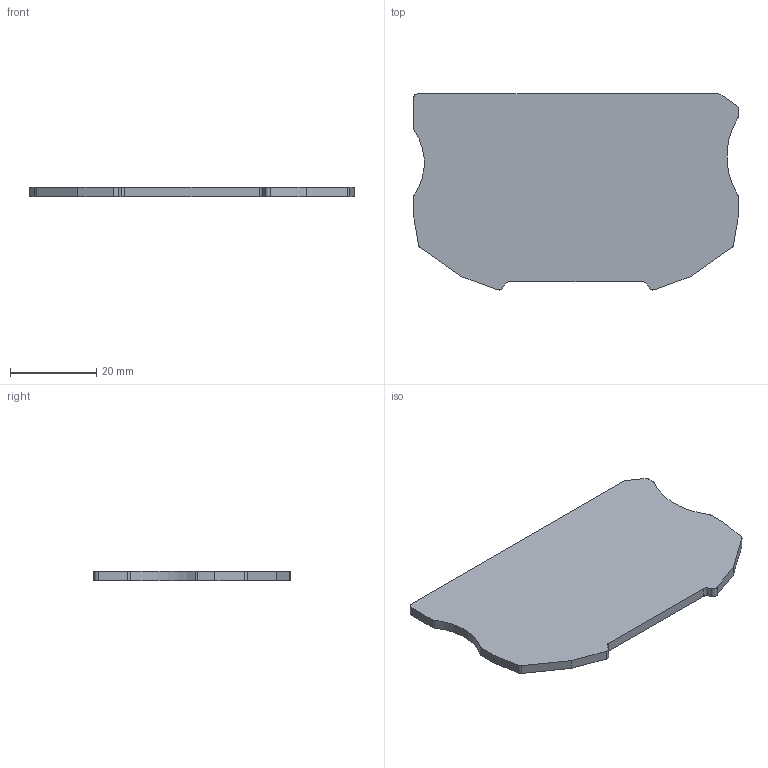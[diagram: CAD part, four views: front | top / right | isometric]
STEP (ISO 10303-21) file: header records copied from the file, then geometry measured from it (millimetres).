
FILE_DESCRIPTION( ('This file contains a STEP AP42 implementation' ,'as created by ZW3D STEP Interface translator.') ,'2;1' );
FILE_NAME( 'D-RPV16傷啣耀倰.stp' ,'22 928. 91114', (''), ('ZWCAD Software Co.'), 'Version 1.0', 'ZW3D to STEP translator', '' );
FILE_SCHEMA(('AUTOMOTIVE_DESIGN { 1 0 10303 214 1 1 1 1 }'));
Length unit declared in the file: millimetre
Products named in the file (2): 0; D-RPV16傷啣耀倰
Bounding box: 75.4 x 45.46 x 2.2 mm (x, y, z)
Volume: 6832.3 mm3; surface area: 6708.3 mm2
Topology: 1 solids, 1 shells, 32 faces, 90 edges, 60 vertices
Faces by surface type: plane 17, cylinder 15
Entity records: 1113 total; most frequent: DIRECTION 186, CARTESIAN_POINT 183, ORIENTED_EDGE 180, EDGE_CURVE 90, AXIS2_PLACEMENT_3D 63, VERTEX_POINT 60, VECTOR 60, LINE 60
